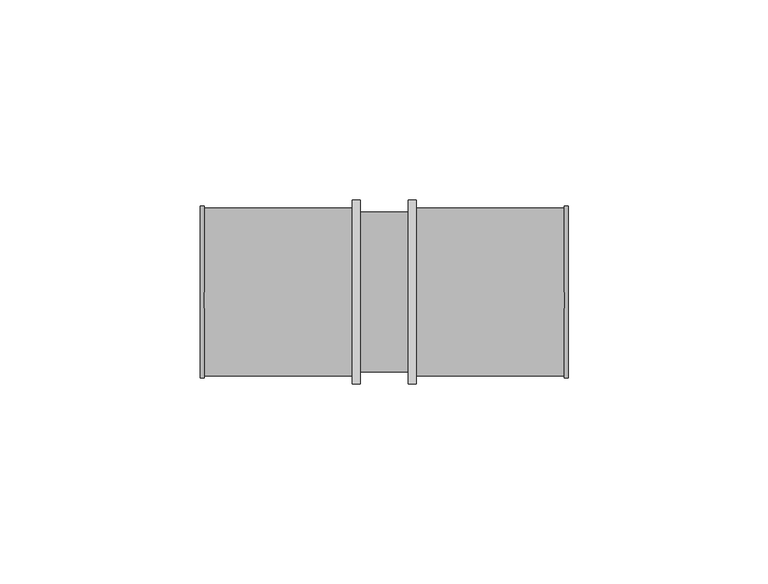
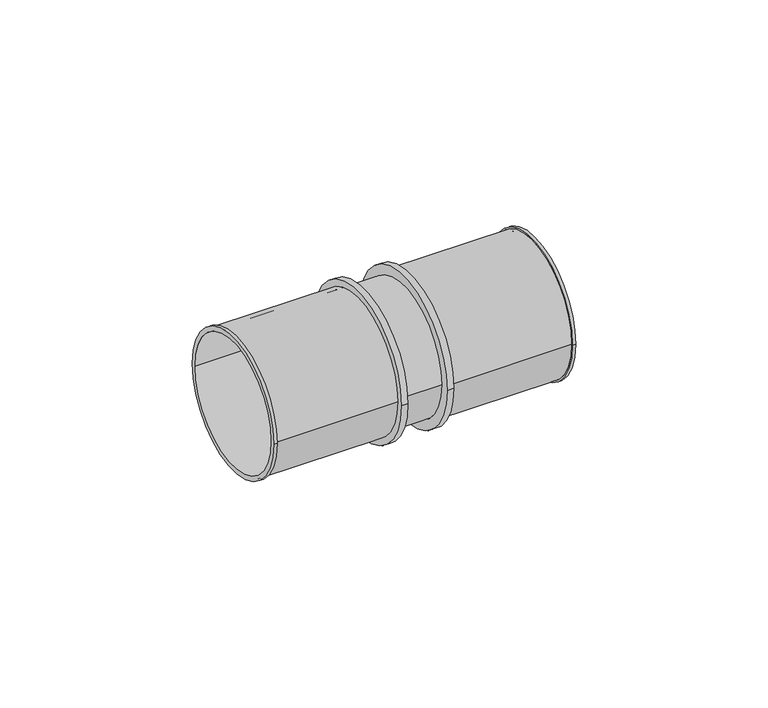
"""IFC4 building model written with IfcOpenShell, lengths in millimetres: pipe fitting geometry, SuperPipe_Coupling_SPressPlus : SuperPipe_Coupling_SPressPlus."""

from ifc_helpers import new_model, si_unit, point, frame, origin, origin_2d, place, context, project, spatial, polyline, circle_curve, trimmed, segment, composite_curve, outline, extrude, source, transform, mapped, element, save
from ifc_brep_helpers import plane_surface, cylinder_surface, revolved_surface, advanced_brep


def pipe_fitting_38a23432(model_context):
    return source(origin(), model_context, "Body", "SolidModel", [
        advanced_brep(
        [(-52.0, -21.5, 0.0), (-52.0, 21.5, 0.0), (-52.0, -20.0, 0.0), (-52.0, 20.0, 0.0), (-14.0, -21.0, 0.0), (-14.0, 21.0, 0.0), (-14.0, -20.0, 0.0), (-14.0, 20.0, 0.0), (-51.0, -20.0, 0.0), (-51.0, 20.0, 0.0), (-51.0, 21.0, 0.0), (-51.0, -21.0, 0.0), (-51.0, -21.5, 0.0), (-51.0, 21.5, 0.0)],
        [
            (0, 1, circle_curve(frame((-52.0, 0.0, 0.0), z_axis=(-1.0, 0.0, 0.0), x_axis=(0.0, 1.0, 0.0)), 21.5)),
            (1, 0, circle_curve(frame((-52.0, 0.0, 0.0), z_axis=(-1.0, 0.0, 0.0), x_axis=(0.0, 1.0, 0.0)), 21.5)),
            (2, 3, circle_curve(frame((-52.0, 0.0, 0.0), z_axis=(1.0, 0.0, 0.0), x_axis=(0.0, 1.0, 0.0)), 20.0)),
            (3, 2, circle_curve(frame((-52.0, 0.0, 0.0), z_axis=(1.0, 0.0, 0.0), x_axis=(0.0, 1.0, 0.0)), 20.0)),
            (4, 5, circle_curve(frame((-14.0, 0.0, 0.0), z_axis=(1.0, 0.0, 0.0), x_axis=(0.0, 1.0, 0.0)), 21.0)),
            (5, 4, circle_curve(frame((-14.0, 0.0, 0.0), z_axis=(1.0, 0.0, 0.0), x_axis=(0.0, 1.0, 0.0)), 21.0)),
            (6, 7, circle_curve(frame((-14.0, 0.0, 0.0), z_axis=(-1.0, 0.0, 0.0), x_axis=(0.0, 1.0, 0.0)), 20.0)),
            (7, 6, circle_curve(frame((-14.0, 0.0, 0.0), z_axis=(-1.0, 0.0, 0.0), x_axis=(0.0, 1.0, 0.0)), 20.0)),
            (2, 8),
            (8, 6),
            (7, 9),
            (9, 3),
            (5, 10),
            (10, 11, circle_curve(frame((-51.0, 0.0, 0.0), z_axis=(1.0, 0.0, 0.0), x_axis=(0.0, 1.0, 0.0)), 21.0)),
            (11, 4),
            (11, 10, circle_curve(frame((-51.0, 0.0, 0.0), z_axis=(1.0, 0.0, 0.0), x_axis=(0.0, 1.0, 0.0)), 21.0)),
            (12, 13, circle_curve(frame((-51.0, 0.0, 0.0), z_axis=(1.0, 0.0, 0.0), x_axis=(0.0, 1.0, 0.0)), 21.5)),
            (13, 12, circle_curve(frame((-51.0, 0.0, 0.0), z_axis=(1.0, 0.0, 0.0), x_axis=(0.0, 1.0, 0.0)), 21.5)),
            (0, 12),
            (13, 1),
        ],
        [
            plane_surface(frame((-52.0, 0.0, 0.0), z_axis=(-1.0, 0.0, 0.0), x_axis=(0.0, 0.0, 1.0))),
            plane_surface(frame((-14.0, 0.0, 0.0), z_axis=(1.0, 0.0, 0.0), x_axis=(0.0, 0.0, 1.0))),
            revolved_surface(polyline([(-14.0, 20.0, 0.0), (-52.0, 20.0, 0.0)]), (-52.0, 0.0, 0.0), (1.0, 0.0, 0.0)),
            cylinder_surface(frame((-52.0, 0.0, 0.0), z_axis=(-1.0, 0.0, 0.0), x_axis=(0.0, 1.0, 0.0)), 21.0),
            plane_surface(frame((-51.0, 0.0, 0.0), z_axis=(1.0, 0.0, 0.0), x_axis=(0.0, 0.0, 1.0))),
            cylinder_surface(frame((-52.0, 0.0, 0.0), z_axis=(-1.0, 0.0, 0.0), x_axis=(0.0, 1.0, 0.0)), 21.5),
        ],
        [
            (0, [[1, 2], [3, 4]]),
            (1, [[5, 6], [7, 8]]),
            (2, [[-3, 9, 10, -8, 11, 12]]),
            (2, [[-4, -12, -11, -7, -10, -9]]),
            (3, [[-6, 13, 14, 15]]),
            (3, [[-5, -15, 16, -13]]),
            (4, [[17, 18], [-14, -16]]),
            (5, [[-1, 19, -18, 20]]),
            (5, [[-2, -20, -17, -19]]),
        ],
    ),
        advanced_brep(
        [(2.0, -21.0, 0.0), (2.0, 21.0, 0.0), (2.0, -20.0, 0.0), (2.0, 20.0, 0.0), (40.0, -21.5, 0.0), (40.0, 21.5, 0.0), (40.0, -20.0, 0.0), (40.0, 20.0, 0.0), (39.0, -21.0, 0.0), (39.0, 21.0, 0.0), (39.0, -20.0, 0.0), (39.0, 20.0, 0.0), (39.0, -21.5, 0.0), (39.0, 21.5, 0.0)],
        [
            (0, 1, circle_curve(frame((2.0, 0.0, 0.0), z_axis=(-1.0, 0.0, 0.0), x_axis=(0.0, 1.0, 0.0)), 21.0)),
            (1, 0, circle_curve(frame((2.0, 0.0, 0.0), z_axis=(-1.0, 0.0, 0.0), x_axis=(0.0, 1.0, 0.0)), 21.0)),
            (2, 3, circle_curve(frame((2.0, 0.0, 0.0), z_axis=(1.0, 0.0, 0.0), x_axis=(0.0, 1.0, 0.0)), 20.0)),
            (3, 2, circle_curve(frame((2.0, 0.0, 0.0), z_axis=(1.0, 0.0, 0.0), x_axis=(0.0, 1.0, 0.0)), 20.0)),
            (4, 5, circle_curve(frame((40.0, 0.0, 0.0), z_axis=(1.0, 0.0, 0.0), x_axis=(0.0, 1.0, 0.0)), 21.5)),
            (5, 4, circle_curve(frame((40.0, 0.0, 0.0), z_axis=(1.0, 0.0, 0.0), x_axis=(0.0, 1.0, 0.0)), 21.5)),
            (6, 7, circle_curve(frame((40.0, 0.0, 0.0), z_axis=(-1.0, 0.0, 0.0), x_axis=(0.0, 1.0, 0.0)), 20.0)),
            (7, 6, circle_curve(frame((40.0, 0.0, 0.0), z_axis=(-1.0, 0.0, 0.0), x_axis=(0.0, 1.0, 0.0)), 20.0)),
            (0, 8),
            (8, 9, circle_curve(frame((39.0, 0.0, 0.0), z_axis=(-1.0, 0.0, 0.0), x_axis=(0.0, 1.0, 0.0)), 21.0)),
            (9, 1),
            (9, 8, circle_curve(frame((39.0, 0.0, 0.0), z_axis=(-1.0, 0.0, 0.0), x_axis=(0.0, 1.0, 0.0)), 21.0)),
            (2, 10),
            (10, 6),
            (7, 11),
            (11, 3),
            (12, 13, circle_curve(frame((39.0, 0.0, 0.0), z_axis=(-1.0, 0.0, 0.0), x_axis=(0.0, 1.0, 0.0)), 21.5)),
            (13, 12, circle_curve(frame((39.0, 0.0, 0.0), z_axis=(-1.0, 0.0, 0.0), x_axis=(0.0, 1.0, 0.0)), 21.5)),
            (12, 4),
            (5, 13),
        ],
        [
            plane_surface(frame((2.0, 0.0, 0.0), z_axis=(-1.0, 0.0, 0.0), x_axis=(0.0, 0.0, 1.0))),
            plane_surface(frame((40.0, 0.0, 0.0), z_axis=(1.0, 0.0, 0.0), x_axis=(0.0, 0.0, 1.0))),
            cylinder_surface(frame((2.0, 0.0, 0.0), z_axis=(-1.0, 0.0, 0.0), x_axis=(0.0, 1.0, 0.0)), 21.0),
            revolved_surface(polyline([(40.0, 20.0, 0.0), (2.0, 20.0, 0.0)]), (2.0, 0.0, 0.0), (1.0, 0.0, 0.0)),
            plane_surface(frame((39.0, 0.0, 0.0), z_axis=(-1.0, 0.0, 0.0), x_axis=(0.0, 0.0, 1.0))),
            cylinder_surface(frame((39.0, 0.0, 0.0), z_axis=(-1.0, 0.0, 0.0), x_axis=(0.0, 1.0, 0.0)), 21.5),
        ],
        [
            (0, [[1, 2], [3, 4]]),
            (1, [[5, 6], [7, 8]]),
            (2, [[-1, 9, 10, 11]]),
            (2, [[-2, -11, 12, -9]]),
            (3, [[-3, 13, 14, -8, 15, 16]]),
            (3, [[-4, -16, -15, -7, -14, -13]]),
            (4, [[17, 18], [-10, -12]]),
            (5, [[-17, 19, -6, 20]]),
            (5, [[-18, -20, -5, -19]]),
        ],
    ),
        extrude(outline(composite_curve([segment(trimmed(circle_curve(origin_2d(), 23.0), [point((-23.0, 0.0))], [point((23.0, 0.0))], False, "CARTESIAN"), True, "CONTINUOUS"), segment(trimmed(circle_curve(origin_2d(), 23.0), [point((23.0, 0.0))], [point((-23.0, 0.0))], False, "CARTESIAN"), True, "CONTINUOUS")], self_intersect=False), holes=[composite_curve([segment(trimmed(circle_curve(origin_2d(), 20.0), [point((-20.0, 0.0))], [point((20.0, 0.0))], True, "CARTESIAN"), True, "CONTINUOUS"), segment(trimmed(circle_curve(origin_2d(), 20.0), [point((20.0, 0.0))], [point((-20.0, 0.0))], True, "CARTESIAN"), True, "CONTINUOUS")], self_intersect=False)]), frame((0.0, 0.0, 0.0), z_axis=(1.0, 0.0, 0.0), x_axis=(0.0, 1.0, 0.0)), (0.0, 0.0, 1.0), 2.0),
        extrude(outline(composite_curve([segment(trimmed(circle_curve(origin_2d(), 23.0), [point((-23.0, 0.0))], [point((23.0, 0.0))], False, "CARTESIAN"), True, "CONTINUOUS"), segment(trimmed(circle_curve(origin_2d(), 23.0), [point((23.0, 0.0))], [point((-23.0, 0.0))], False, "CARTESIAN"), True, "CONTINUOUS")], self_intersect=False), holes=[composite_curve([segment(trimmed(circle_curve(origin_2d(), 20.0), [point((-20.0, 0.0))], [point((20.0, 0.0))], True, "CARTESIAN"), True, "CONTINUOUS"), segment(trimmed(circle_curve(origin_2d(), 20.0), [point((20.0, 0.0))], [point((-20.0, 0.0))], True, "CARTESIAN"), True, "CONTINUOUS")], self_intersect=False)]), frame((-14.0, 0.0, 0.0), z_axis=(1.0, 0.0, 0.0), x_axis=(0.0, 1.0, 0.0)), (0.0, 0.0, 1.0), 2.0),
        extrude(outline(composite_curve([segment(trimmed(circle_curve(origin_2d(), 20.0), [point((-20.0, 0.0))], [point((20.0, 0.0))], False, "CARTESIAN"), True, "CONTINUOUS"), segment(trimmed(circle_curve(origin_2d(), 20.0), [point((20.0, 0.0))], [point((-20.0, 0.0))], False, "CARTESIAN"), True, "CONTINUOUS")], self_intersect=False)), frame((-12.0, 0.0, 0.0), z_axis=(1.0, 0.0, 0.0), x_axis=(0.0, 1.0, 0.0)), (0.0, 0.0, 1.0), 12.0),
    ])


if __name__ == "__main__":
    model = new_model("IFC4")
    model_context = context("Model", 3, world=origin())
    ifc_project = project(units=[si_unit("LENGTHUNIT", "METRE", prefix="MILLI")], contexts=[model_context])
    site = spatial("IfcSite", under=ifc_project)
    building = spatial("IfcBuilding", under=site)
    placement = place(None, origin())
    pipe_fitting_shape = pipe_fitting_38a23432(model_context)
    element("IfcPipeFitting", 1, ObjectType="SuperPipe_Coupling_SPressPlus : SuperPipe_Coupling_SPressPlus", at=placement, inside=building, context=model_context, shape_type="MappedRepresentation", body=[
        mapped(pipe_fitting_shape, transform((0.0, 0.0, 0.0), x_axis=(1.0, 0.0, 0.0), y_axis=(0.0, 1.0, 0.0), z_axis=(0.0, 0.0, 1.0))),
    ])
    save(model, "model.ifc")
